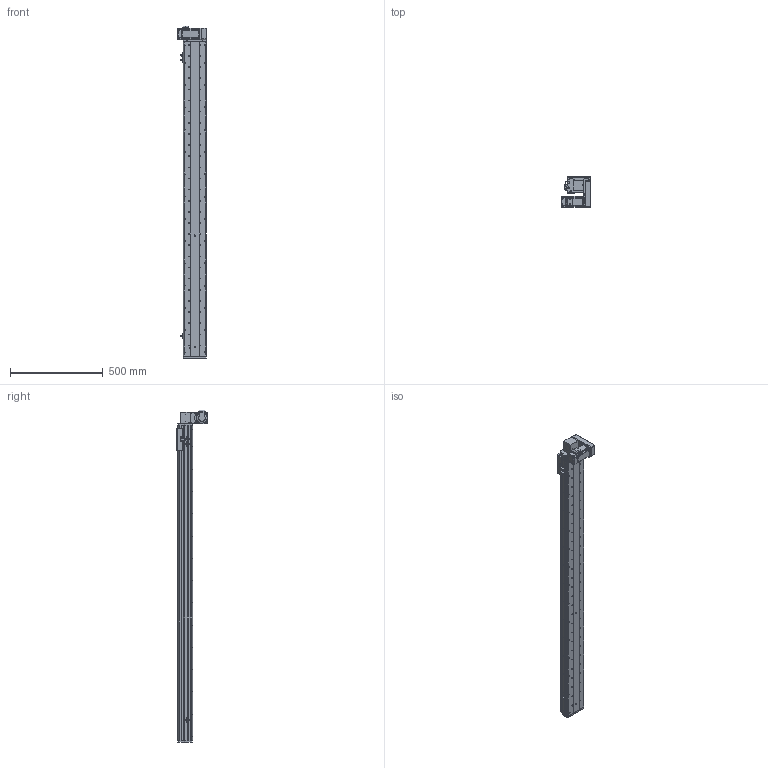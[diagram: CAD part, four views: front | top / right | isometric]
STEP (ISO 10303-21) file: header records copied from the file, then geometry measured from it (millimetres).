
FILE_DESCRIPTION (( 'STEP AP214' ), '1' );
FILE_NAME ('KSD125B-S1500-MLD-CM.STEP', '2017-10-21T03:06:09', ( '微软用户' ), ( '微软中国' ), 'SwSTEP 2.0', 'SolidWorks 2014', '' );
FILE_SCHEMA (( 'AUTOMOTIVE_DESIGN' ));
Length unit declared in the file: millimetre
Products named in the file (17): 100宽马达安装板同步带左; KSD125模组1500行程同步带-防尘盖; 125模组1500行程同步带-底板; MHMD042G1CA_2_03; KSD125模组同步带-防撞垫2; 覜茼え68遵圉猾敕; U倰嫖萇假蚾璃; U倰嫖萇EEㄜSX672; KSD125模组同步带-防撞垫1; 前端板-125宽模组同步带; 125模组同步带-尾端板1; KSD125模组同步带-滑动座1; KSD125B-S1500-MLD-CM; 悵誘欶奻狟殏; 100宽马达安装板连板上下折丝杆同步带; HTPA30S3M150_A_H6_a佪裝蚚; HTPA30S3M150_A_H6_a萇儂蚚
Assembly tree (20 placements, depth 2):
  KSD125B-S1500-MLD-CM
    KSD125模组同步带-滑动座1
    125模组同步带-尾端板1
    前端板-125宽模组同步带
    KSD125模组同步带-防撞垫1
    U倰嫖萇EEㄜSX672  x3
    U倰嫖萇假蚾璃  x3
    覜茼え68遵圉猾敕
    KSD125模组同步带-防撞垫2
    MHMD042G1CA_2_03
    125模组1500行程同步带-底板
    KSD125模组1500行程同步带-防尘盖
    100宽马达安装板同步带左
    HTPA30S3M150_A_H6_a萇儂蚚
    HTPA30S3M150_A_H6_a佪裝蚚
    100宽马达安装板连板上下折丝杆同步带
    悵誘欶奻狟殏
Bounding box: 155 x 166.5 x 1789 mm (x, y, z)
Volume: 5257825.6 mm3; surface area: 1742590.6 mm2
Topology: 19 solids, 22 shells, 2397 faces, 6955 edges, 4598 vertices
Faces by surface type: cylinder 1532, plane 738, cone 105, bspline 22
Entity records: 85901 total; most frequent: CARTESIAN_POINT 16905, DIRECTION 13340, ORIENTED_EDGE 12430, EDGE_CURVE 6293, AXIS2_PLACEMENT_3D 5181, VERTEX_POINT 4190, CIRCLE 3002, LINE 2978
